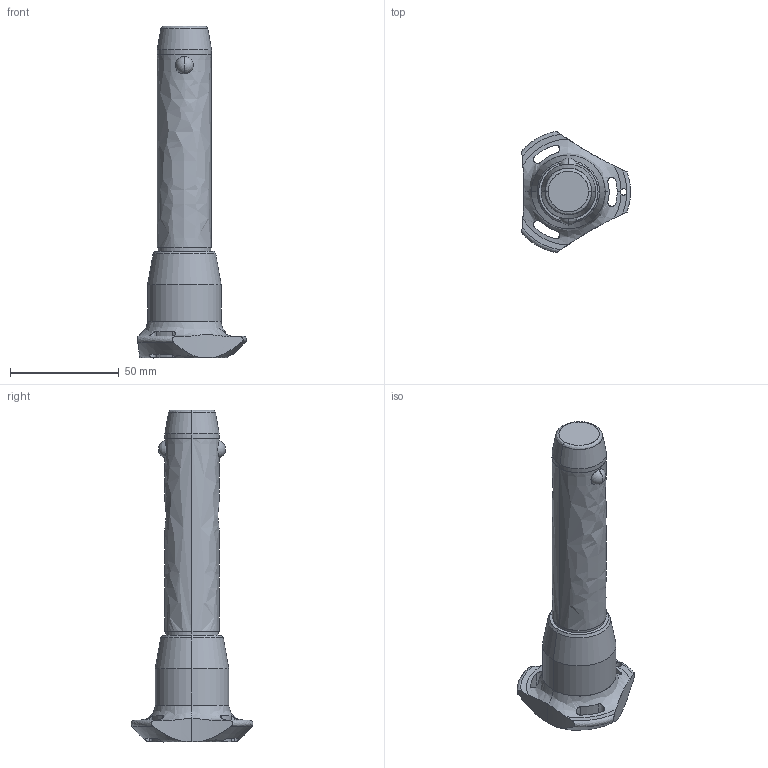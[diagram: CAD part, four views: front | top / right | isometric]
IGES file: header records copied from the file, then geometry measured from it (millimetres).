
Start section: SolidWorks IGES file using analytic representation for surfaces
Global section: file name: C:\Users\ianosborn\Desktop\QR1716_v2\QR1716_v2_20251114_IGES\QR1716.M25-080-T.igs; native system: SolidWorks 2019; preprocessor: SolidWorks 2019; author: IanOsborn; date: 251113.104620; units: millimetre
Bounding box: 50.03 x 56.02 x 152.7 mm (x, y, z)
Surface area: 17733 mm2 (no closed solid volume)
Topology: 0 solids, 0 shells, 68 faces, 1382 edges, 1378 vertices
Faces by surface type: revolution 52, bspline 16
